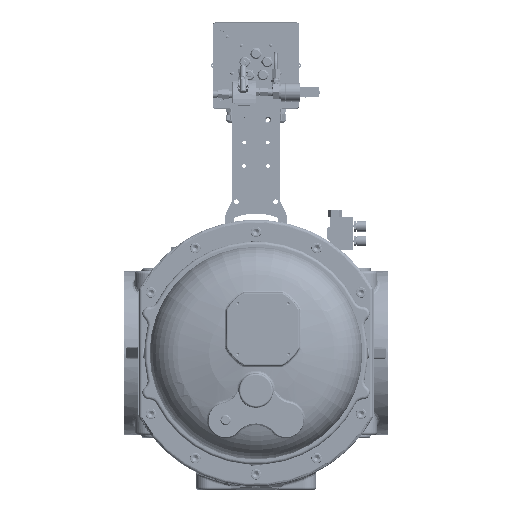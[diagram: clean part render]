
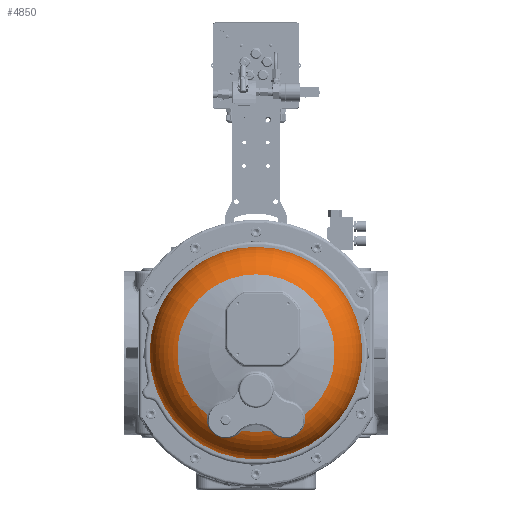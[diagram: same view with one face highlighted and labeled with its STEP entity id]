
A CAD part, left-side view. The second image highlights one B-rep face of the part: STEP entity #4850.
In plain terms, the highlighted toroidal (fillet/blend) face has major radius 113.213 mm and minor radius 67.949 mm.
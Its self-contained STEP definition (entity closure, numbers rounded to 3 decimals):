
#4850=ADVANCED_FACE('',(#303163,#303165),#303167,.T.);
#303163=FACE_OUTER_BOUND('',#303164,.T.);
#303164=EDGE_LOOP('',(#581645));
#303165=FACE_BOUND('',#303166,.T.);
#303166=EDGE_LOOP('',(#581646,#581647,#581648,#581649,#581650,#581651,#581652));
#303167=TOROIDAL_SURFACE('',#303168,113.213,67.949);
#303168=AXIS2_PLACEMENT_3D('',#303169,#303170,#303171);
#303169=CARTESIAN_POINT('',(-472.564,0.,0.));
#303170=DIRECTION('',(-1.,0.,0.));
#303171=DIRECTION('',(0.,0.,1.));
#581645=ORIENTED_EDGE('',*,*,#795702,.F.);
#581646=ORIENTED_EDGE('',*,*,#795707,.T.);
#581647=ORIENTED_EDGE('',*,*,#795708,.F.);
#581648=ORIENTED_EDGE('',*,*,#795709,.F.);
#581649=ORIENTED_EDGE('',*,*,#795710,.T.);
#581650=ORIENTED_EDGE('',*,*,#795711,.T.);
#581651=ORIENTED_EDGE('',*,*,#795712,.F.);
#581652=ORIENTED_EDGE('',*,*,#795713,.T.);
#795702=EDGE_CURVE('',#888625,#888625,#888626,.F.);
#795707=EDGE_CURVE('',#888635,#888636,#888637,.F.);
#795708=EDGE_CURVE('',#888638,#888636,#888639,.T.);
#795709=EDGE_CURVE('',#888640,#888638,#888641,.T.);
#795710=EDGE_CURVE('',#888640,#888642,#888643,.F.);
#795711=EDGE_CURVE('',#888642,#888644,#888645,.F.);
#795712=EDGE_CURVE('',#888646,#888644,#888647,.T.);
#795713=EDGE_CURVE('',#888646,#888635,#888648,.T.);
#888625=VERTEX_POINT('',#1062979);
#888626=CIRCLE('',#1062980,181.);
#888635=VERTEX_POINT('',#1063004);
#888636=VERTEX_POINT('',#1063005);
#888637=B_SPLINE_CURVE_WITH_KNOTS('',3,
(#1063006,#1063007,#1063008,#1063009,#1063010,#1063011,#1063012,#1063013,#1063014,
#1063015,#1063016,#1063017,#1063018,#1063019,#1063020,#1063021,#1063022,#1063023,
#1063024,#1063025,#1063026,#1063027,#1063028,#1063029,#1063030,#1063031,#1063032),
.UNSPECIFIED.,.F.,.F.,
(4,1,1,1,1,1,1,1,1,1,1,1,1,1,1,1,1,1,1,1,1,1,1,1,4),
(0.,0.067,0.125,0.179,0.233,0.284,
0.328,0.368,0.407,0.443,0.478,
0.51,0.539,0.564,0.593,0.624,
0.66,0.698,0.743,0.79,0.842,
0.89,0.934,0.969,1.),
.UNSPECIFIED.);
#888638=VERTEX_POINT('',#1063033);
#888639=CIRCLE('',#1063034,134.);
#888640=VERTEX_POINT('',#1063038);
#888641=CIRCLE('',#1063039,134.);
#888642=VERTEX_POINT('',#1063043);
#888643=B_SPLINE_CURVE_WITH_KNOTS('',3,
(#1063044,#1063045,#1063046,#1063047,#1063048,#1063049,#1063050,#1063051,#1063052,
#1063053,#1063054,#1063055,#1063056,#1063057,#1063058,#1063059,#1063060,#1063061,
#1063062,#1063063,#1063064,#1063065,#1063066,#1063067,#1063068,#1063069),
.UNSPECIFIED.,.F.,.F.,
(4,1,1,1,1,1,1,1,1,1,1,1,1,1,1,1,1,1,1,1,1,1,1,4),
(0.,0.074,0.138,0.188,0.237,0.28,
0.321,0.358,0.395,0.428,0.457,
0.481,0.506,0.533,0.565,0.601,
0.638,0.68,0.724,0.774,0.824,
0.875,0.934,1.),
.UNSPECIFIED.);
#888644=VERTEX_POINT('',#1063070);
#888645=B_SPLINE_CURVE_WITH_KNOTS('',3,
(#1063071,#1063072,#1063073,#1063074,#1063075,#1063076),
.UNSPECIFIED.,.F.,.F.,
(4,1,1,4),
(0.,0.333,0.667,1.),
.UNSPECIFIED.);
#888646=VERTEX_POINT('',#1063077);
#888647=CIRCLE('',#1063078,134.);
#888648=B_SPLINE_CURVE_WITH_KNOTS('',3,
(#1063082,#1063083,#1063084,#1063085,#1063086,#1063087,#1063088),
.UNSPECIFIED.,.F.,.F.,
(4,1,1,1,4),
(0.,0.333,0.667,0.889,1.),
.UNSPECIFIED.);
#1062979=CARTESIAN_POINT('',(-477.256,0.,181.));
#1062980=AXIS2_PLACEMENT_3D('',#1062981,#1062982,#1062983);
#1062981=CARTESIAN_POINT('',(-477.256,0.,0.));
#1062982=DIRECTION('',(-1.,0.,0.));
#1062983=DIRECTION('',(0.,0.,1.));
#1063004=CARTESIAN_POINT('',(-536.176,26.7,-134.475));
#1063005=CARTESIAN_POINT('',(-537.256,82.998,-105.202));
#1063006=CARTESIAN_POINT('',(-537.256,82.998,-105.202));
#1063007=CARTESIAN_POINT('',(-536.708,83.417,-107.041));
#1063008=CARTESIAN_POINT('',(-535.597,83.861,-110.527));
#1063009=CARTESIAN_POINT('',(-533.871,83.676,-115.479));
#1063010=CARTESIAN_POINT('',(-532.225,82.841,-119.986));
#1063011=CARTESIAN_POINT('',(-530.671,81.453,-124.158));
#1063012=CARTESIAN_POINT('',(-529.278,79.604,-127.931));
#1063013=CARTESIAN_POINT('',(-528.134,77.496,-131.157));
#1063014=CARTESIAN_POINT('',(-527.23,75.242,-133.897));
#1063015=CARTESIAN_POINT('',(-526.536,72.863,-136.25));
#1063016=CARTESIAN_POINT('',(-526.034,70.344,-138.292));
#1063017=CARTESIAN_POINT('',(-525.728,67.796,-139.986));
#1063018=CARTESIAN_POINT('',(-525.6,65.294,-141.346));
#1063019=CARTESIAN_POINT('',(-525.613,62.939,-142.39));
#1063020=CARTESIAN_POINT('',(-525.74,60.614,-143.224));
#1063021=CARTESIAN_POINT('',(-525.981,58.171,-143.905));
#1063022=CARTESIAN_POINT('',(-526.381,55.399,-144.448));
#1063023=CARTESIAN_POINT('',(-526.972,52.317,-144.771));
#1063024=CARTESIAN_POINT('',(-527.793,48.875,-144.793));
#1063025=CARTESIAN_POINT('',(-528.844,45.179,-144.418));
#1063026=CARTESIAN_POINT('',(-530.138,41.238,-143.54));
#1063027=CARTESIAN_POINT('',(-531.558,37.387,-142.151));
#1063028=CARTESIAN_POINT('',(-532.981,33.854,-140.338));
#1063029=CARTESIAN_POINT('',(-534.236,30.931,-138.374));
#1063030=CARTESIAN_POINT('',(-535.293,28.592,-136.407));
#1063031=CARTESIAN_POINT('',(-535.899,27.275,-135.114));
#1063032=CARTESIAN_POINT('',(-536.176,26.7,-134.475));
#1063033=CARTESIAN_POINT('',(-537.256,0.,134.));
#1063034=AXIS2_PLACEMENT_3D('',#1063035,#1063036,#1063037);
#1063035=CARTESIAN_POINT('',(-537.256,0.,0.));
#1063036=DIRECTION('',(-1.,0.,0.));
#1063037=DIRECTION('',(0.,0.,1.));
#1063038=CARTESIAN_POINT('',(-537.256,-82.998,-105.202));
#1063039=AXIS2_PLACEMENT_3D('',#1063040,#1063041,#1063042);
#1063040=CARTESIAN_POINT('',(-537.256,0.,0.));
#1063041=DIRECTION('',(-1.,0.,0.));
#1063042=DIRECTION('',(0.,-0.619,-0.785));
#1063043=CARTESIAN_POINT('',(-536.176,-26.7,-134.475));
#1063044=CARTESIAN_POINT('',(-536.176,-26.7,-134.475));
#1063045=CARTESIAN_POINT('',(-535.514,-28.073,-136.001));
#1063046=CARTESIAN_POINT('',(-534.209,-30.963,-138.525));
#1063047=CARTESIAN_POINT('',(-532.336,-35.399,-141.242));
#1063048=CARTESIAN_POINT('',(-530.733,-39.579,-143.008));
#1063049=CARTESIAN_POINT('',(-529.406,-43.41,-144.081));
#1063050=CARTESIAN_POINT('',(-528.271,-47.13,-144.663));
#1063051=CARTESIAN_POINT('',(-527.36,-50.606,-144.826));
#1063052=CARTESIAN_POINT('',(-526.64,-53.946,-144.64));
#1063053=CARTESIAN_POINT('',(-526.121,-57.058,-144.162));
#1063054=CARTESIAN_POINT('',(-525.795,-59.895,-143.453));
#1063055=CARTESIAN_POINT('',(-525.635,-62.349,-142.619));
#1063056=CARTESIAN_POINT('',(-525.597,-64.505,-141.709));
#1063057=CARTESIAN_POINT('',(-525.654,-66.558,-140.678));
#1063058=CARTESIAN_POINT('',(-525.823,-68.702,-139.409));
#1063059=CARTESIAN_POINT('',(-526.149,-71.004,-137.788));
#1063060=CARTESIAN_POINT('',(-526.663,-73.355,-135.796));
#1063061=CARTESIAN_POINT('',(-527.387,-75.686,-133.401));
#1063062=CARTESIAN_POINT('',(-528.32,-77.885,-130.619));
#1063063=CARTESIAN_POINT('',(-529.485,-79.914,-127.364));
#1063064=CARTESIAN_POINT('',(-530.836,-81.619,-123.714));
#1063065=CARTESIAN_POINT('',(-532.322,-82.897,-119.721));
#1063066=CARTESIAN_POINT('',(-533.916,-83.687,-115.352));
#1063067=CARTESIAN_POINT('',(-535.617,-83.856,-110.467));
#1063068=CARTESIAN_POINT('',(-536.717,-83.41,-107.01));
#1063069=CARTESIAN_POINT('',(-537.256,-82.998,-105.202));
#1063070=CARTESIAN_POINT('',(-537.256,-23.979,-131.837));
#1063071=CARTESIAN_POINT('',(-537.256,-23.979,-131.837));
#1063072=CARTESIAN_POINT('',(-537.15,-24.304,-132.112));
#1063073=CARTESIAN_POINT('',(-536.927,-24.929,-132.685));
#1063074=CARTESIAN_POINT('',(-536.568,-25.84,-133.563));
#1063075=CARTESIAN_POINT('',(-536.31,-26.417,-134.169));
#1063076=CARTESIAN_POINT('',(-536.176,-26.7,-134.475));
#1063077=CARTESIAN_POINT('',(-537.256,23.979,-131.837));
#1063078=AXIS2_PLACEMENT_3D('',#1063079,#1063080,#1063081);
#1063079=CARTESIAN_POINT('',(-537.256,0.,0.));
#1063080=DIRECTION('',(-1.,0.,0.));
#1063081=DIRECTION('',(0.,0.179,-0.984));
#1063082=CARTESIAN_POINT('',(-537.256,23.979,-131.837));
#1063083=CARTESIAN_POINT('',(-537.149,24.298,-132.118));
#1063084=CARTESIAN_POINT('',(-536.928,24.932,-132.682));
#1063085=CARTESIAN_POINT('',(-536.608,25.738,-133.466));
#1063086=CARTESIAN_POINT('',(-536.353,26.321,-134.068));
#1063087=CARTESIAN_POINT('',(-536.221,26.606,-134.373));
#1063088=CARTESIAN_POINT('',(-536.176,26.7,-134.475));
